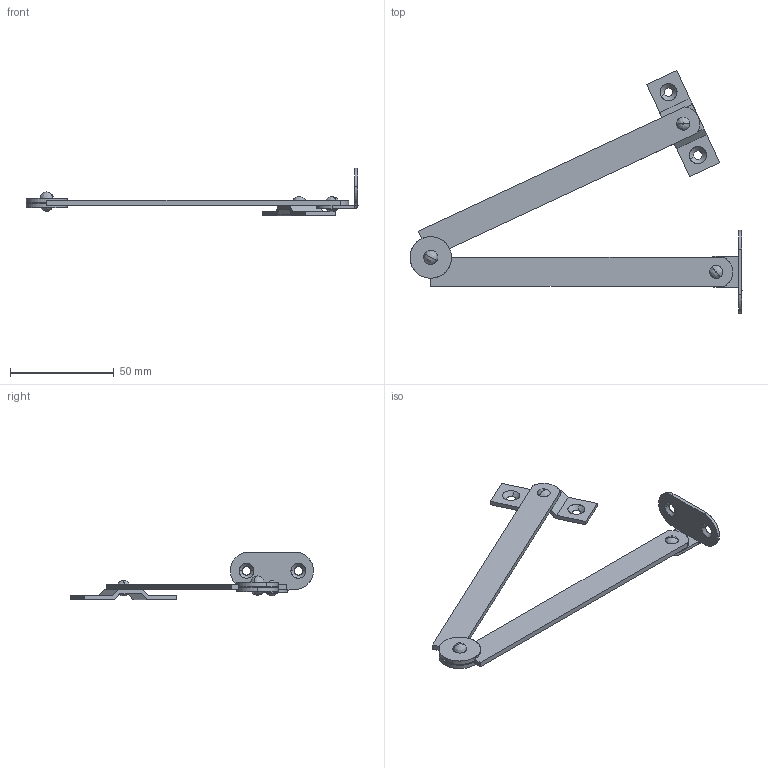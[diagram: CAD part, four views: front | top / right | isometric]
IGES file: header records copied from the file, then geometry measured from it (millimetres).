
Start section: SolidWorks IGES file using analytic representation for surfaces
Global section: file name: C:\Users\cbrechard\Desktop\BA 808.IGS; native system: SolidWorks 2017; preprocessor: SolidWorks 2017; author: cbrechard; date: 191029.161749; units: millimetre
Bounding box: 160 x 117.04 x 23 mm (x, y, z)
Surface area: 15190.1 mm2 (no closed solid volume)
Topology: 0 solids, 0 shells, 107 faces, 1880 edges, 1880 vertices
Faces by surface type: bspline 63, revolution 44
